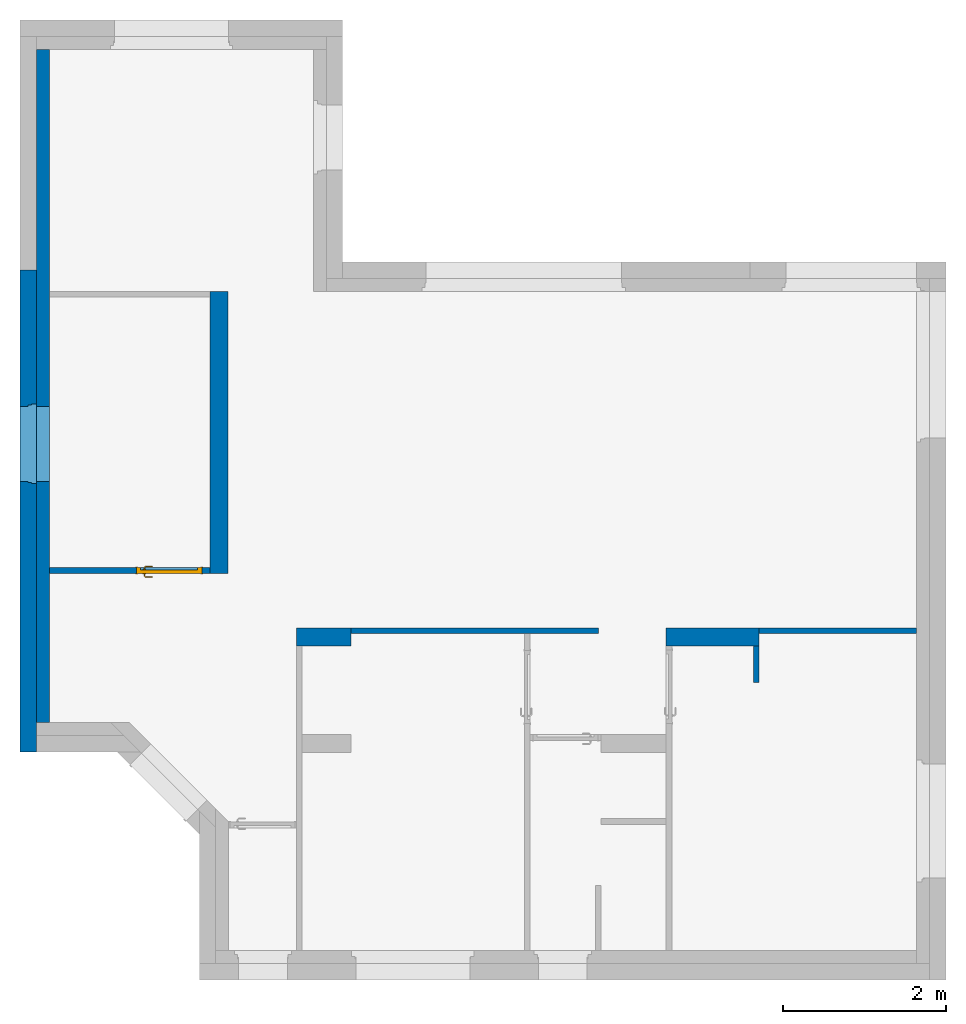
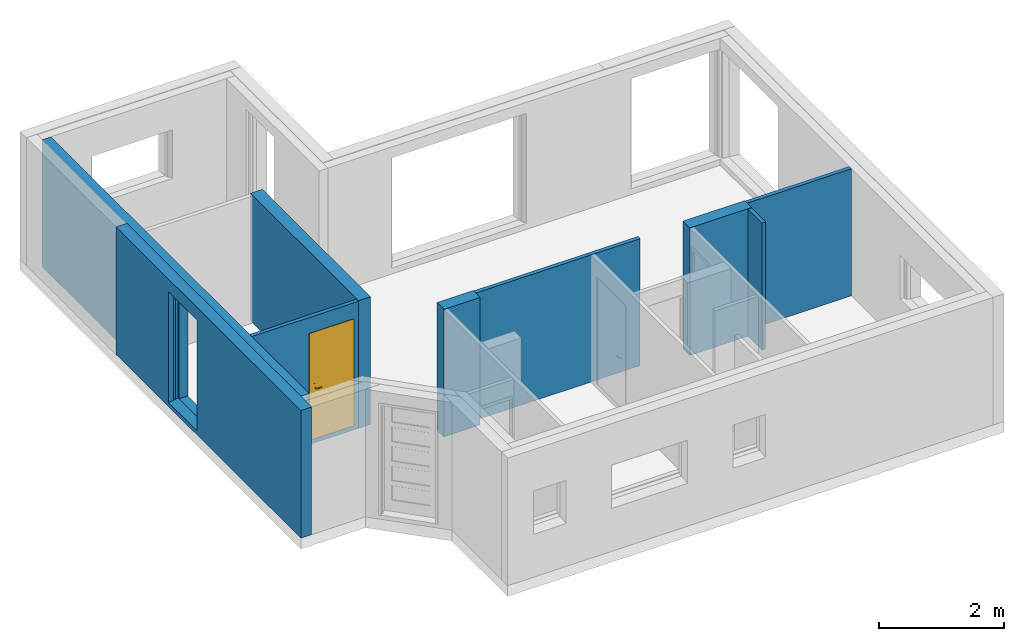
"""IFC2X3 building model written with IfcOpenShell, lengths in centimetres."""

from ifc_helpers import new_model, entity, si_unit, converted_unit, derived_unit, direction, frame, frame_2d, origin, place, context, subcontext, project, spatial, polyline, rectangle, extrude, clip, bounded_halfspace, faceted_brep, source, transform, mapped, material, material_list, layer, layer_set, layer_usage, type_object, type_shapes, element, fill, save


model = new_model("IFC2X3")

# Units and contexts
model_context = context("Model", 3, precision=0.001, world=origin(), true_north=direction((6.12303176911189e-17, 1.0)))
body_context = subcontext(model_context, "Body", "Model", "MODEL_VIEW")
ifc_project = project(units=[si_unit("LENGTHUNIT", "METRE", prefix="CENTI"), si_unit("AREAUNIT", "SQUARE_METRE"), si_unit("VOLUMEUNIT", "CUBIC_METRE"), converted_unit("PLANEANGLEUNIT", "DEGREE", entity("IfcRatioMeasure", 0.0174532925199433), si_unit("PLANEANGLEUNIT", "RADIAN"), dimensions=[0, 0, 0, 0, 0, 0, 0]), si_unit("MASSUNIT", "GRAM", prefix="KILO"), derived_unit("MASSDENSITYUNIT", [(si_unit("MASSUNIT", "GRAM", prefix="KILO"), 1), (si_unit("LENGTHUNIT", "METRE"), -3)]), derived_unit("MOMENTOFINERTIAUNIT", [(si_unit("LENGTHUNIT", "METRE"), 4)]), si_unit("TIMEUNIT", "SECOND"), si_unit("FREQUENCYUNIT", "HERTZ"), si_unit("THERMODYNAMICTEMPERATUREUNIT", "DEGREE_CELSIUS"), derived_unit("THERMALTRANSMITTANCEUNIT", [(si_unit("MASSUNIT", "GRAM", prefix="KILO"), 1), (si_unit("THERMODYNAMICTEMPERATUREUNIT", "KELVIN"), -1), (si_unit("TIMEUNIT", "SECOND"), -3)]), derived_unit("VOLUMETRICFLOWRATEUNIT", [(si_unit("LENGTHUNIT", "METRE"), 3), (si_unit("TIMEUNIT", "SECOND"), -1)]), si_unit("ELECTRICCURRENTUNIT", "AMPERE"), si_unit("ELECTRICVOLTAGEUNIT", "VOLT"), si_unit("POWERUNIT", "WATT"), si_unit("FORCEUNIT", "NEWTON", prefix="KILO"), si_unit("ILLUMINANCEUNIT", "LUX"), si_unit("LUMINOUSFLUXUNIT", "LUMEN"), si_unit("LUMINOUSINTENSITYUNIT", "CANDELA"), derived_unit("USERDEFINED", [(si_unit("MASSUNIT", "GRAM", prefix="KILO"), -1), (si_unit("LENGTHUNIT", "METRE"), -2), (si_unit("TIMEUNIT", "SECOND"), 3), (si_unit("LUMINOUSFLUXUNIT", "LUMEN"), 1)]), derived_unit("LINEARVELOCITYUNIT", [(si_unit("LENGTHUNIT", "METRE"), 1), (si_unit("TIMEUNIT", "SECOND"), -1)]), si_unit("PRESSUREUNIT", "PASCAL"), derived_unit("USERDEFINED", [(si_unit("LENGTHUNIT", "METRE"), -2), (si_unit("MASSUNIT", "GRAM", prefix="KILO"), 1), (si_unit("TIMEUNIT", "SECOND"), -2)]), derived_unit("LINEARFORCEUNIT", [(si_unit("MASSUNIT", "GRAM", prefix="KILO"), 1), (si_unit("LENGTHUNIT", "METRE"), 1), (si_unit("TIMEUNIT", "SECOND"), -2), (si_unit("LENGTHUNIT", "METRE"), -1)]), derived_unit("PLANARFORCEUNIT", [(si_unit("MASSUNIT", "GRAM", prefix="KILO"), 1), (si_unit("LENGTHUNIT", "METRE"), 1), (si_unit("TIMEUNIT", "SECOND"), -2), (si_unit("LENGTHUNIT", "METRE"), -2)])], contexts=[model_context])

# Site, building, storey
site_placement = place(None, origin())
site = spatial("IfcSite", under=ifc_project, at=site_placement, Name="Surface", CompositionType="ELEMENT")
building_placement = place(site_placement, origin())
building = spatial("IfcBuilding", under=site, at=building_placement, CompositionType="ELEMENT")
storey_1_placement = place(building_placement, frame((0.0, 0.0, -8.0)))
storey_1 = spatial("IfcBuildingStorey", under=building, at=storey_1_placement, Name="-0.08_Dessus plancher", CompositionType="ELEMENT", Elevation=-8.0)

# Wall, opening
ifc_material_1 = material(Name="Maçonnerie - Béton")
ifc_layer_1 = layer(ifc_material_1, 20.0)
ifc_layer_set_1 = layer_set([ifc_layer_1], Name="Mur de base:Mur 20")
ifc_layer_usage_1 = layer_usage(ifc_layer_set_1, "AXIS2", "POSITIVE", -10.0)
wall_type_1 = type_object("IfcWallType", Name="Mur de base:Mur 20", PredefinedType="STANDARD", material=ifc_layer_set_1)
wall_1_placement = place(storey_1_placement, frame((-1778.17726031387, 711.992317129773, 0.0), z_axis=(0.0, 0.0, 1.0), x_axis=(0.0, -1.0, 0.0)))
wall_1 = element("IfcWallStandardCase", 1, at=wall_1_placement, inside=storey_1, type_object=wall_type_1, material=ifc_layer_usage_1, Name="Mur de base:Mur 20", ObjectType="Mur de base:Mur 20", context=body_context, shape_type="Clipping", body=[
    clip(extrude(rectangle(XDim=591.000000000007, YDim=19.9999999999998, at=frame_2d((295.500000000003, 0.0), x_axis=(-1.0, 0.0))), origin(), (0.0, 0.0, 1.0), 249.0), bounded_halfspace(frame((0.0, -10.0, 249.0), z_axis=(0.0, 0.0, -1.0), x_axis=(1.0, 0.0, 0.0)), True, frame((0.0, -10.0, 249.0)), polyline([(0.0, 0.0), (591.0, 0.0), (591.0, 20.0), (571.0, 20.0), (0.0, 20.0), (0.0, 0.0)]))),
])
opening_1_placement = place(wall_1_placement, frame((262.0, -40.0, 8.0), z_axis=(0.0, 0.0, 1.0), x_axis=(0.0, 1.0, 0.0)))
element("IfcOpeningElement", 2, at=opening_1_placement, cuts=wall_1, Name="Mur de base:Mur 20", ObjectType="Opening", context=body_context, shape_type="Brep", body=[
    faceted_brep([(80.0, 3.0, 216.0), (80.0, 95.0, 216.0), (50.0, 95.0, 216.0), (50.0, 3.0, 216.0), (0.0, 3.0, 0.0), (0.0, 95.0, 0.0), (40.0, 95.0, 0.0), (40.0, 96.4999999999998, 0.0), (44.300000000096, 96.4999999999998, 0.0), (44.300000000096, 98.0, 0.0), (50.0, 98.0, 0.0), (50.0, 95.0, 0.0), (80.0, 95.0, 0.0), (80.0, 3.0, 0.0), (50.0, 3.0, 0.0), (50.0, 0.0, 0.0), (44.300000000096, 0.0, 0.0), (44.300000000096, 1.50000000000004, 0.0), (40.0, 1.50000000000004, 0.0), (40.0, 3.0, 0.0), (0.0, 3.0, 216.0), (0.0, 95.0, 216.0), (40.0, 95.0, 216.0), (44.300000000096, 0.0, 219.0), (44.300000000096, 98.0, 219.0), (44.300000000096, 96.4999999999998, 217.499999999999), (44.300000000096, 1.50000000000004, 217.499999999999), (50.0, 98.0, 219.0), (50.0, 0.0, 219.0), (40.0, 96.4999999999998, 217.499999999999), (40.0, 3.0, 216.0), (40.0, 1.50000000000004, 217.499999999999)], [[[0, 1, 2, 3]], [[4, 5, 6, 7, 8, 9, 10, 11, 12, 13, 14, 15, 16, 17, 18, 19]], [[13, 0, 3, 14]], [[20, 21, 5, 4]], [[5, 21, 22, 6]], [[1, 0, 13, 12]], [[16, 23, 24, 9, 8, 25, 26, 17]], [[11, 10, 27, 28, 15, 14, 3, 2]], [[10, 9, 24, 27]], [[24, 23, 28, 27]], [[23, 16, 15, 28]], [[8, 7, 29, 25]], [[7, 6, 22, 30, 19, 18, 31, 29]], [[25, 29, 31, 26]], [[31, 18, 17, 26]], [[1, 12, 11, 2]], [[20, 4, 19, 30]], [[21, 20, 30, 22]]]),
])

# Walls
ifc_material_2 = material(Name="Plâtre")
ifc_layer_2 = layer(ifc_material_2, 1.0)
ifc_material_3 = material(Name="Mur par défaut")
ifc_layer_3 = layer(ifc_material_3, 20.0)
ifc_layer_4 = layer(ifc_material_2, 1.0)
ifc_layer_set_2 = layer_set([ifc_layer_2, ifc_layer_3, ifc_layer_4], Name="Mur de base:Mur refend 22")
ifc_layer_usage_2 = layer_usage(ifc_layer_set_2, "AXIS2", "NEGATIVE", 11.0)
wall_type_2 = type_object("IfcWallType", Name="Mur de base:Mur refend 22", PredefinedType="STANDARD", material=ifc_layer_set_2)
wall_2_placement = place(storey_1_placement, frame((-995.177260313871, 261.992317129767, 0.0)))
element("IfcWallStandardCase", 3, at=wall_2_placement, inside=storey_1, type_object=wall_type_2, material=ifc_layer_usage_2, Name="Mur de base:Mur refend 22", ObjectType="Mur de base:Mur refend 22", context=body_context, shape_type="Clipping", body=[
    clip(extrude(rectangle(XDim=114.000000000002, YDim=22.0, at=frame_2d((57.0000000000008, 0.0), x_axis=(-1.0, 0.0))), origin(), (0.0, 0.0, 1.0), 249.0), bounded_halfspace(frame((0.0, -11.0, 249.0), z_axis=(0.0, 0.0, -1.0), x_axis=(0.0, -1.0, 0.0)), True, frame((0.0, -11.0, 249.0)), polyline([(0.0, 0.0), (114.0, 0.0), (114.0, 22.0), (0.0, 22.0), (0.0, 0.0)]))),
])
ifc_layer_usage_3 = layer_usage(ifc_layer_set_2, "AXIS2", "POSITIVE", -11.0)
wall_3_placement = place(storey_1_placement, frame((-1382.17726031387, 261.992317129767, 0.0), z_axis=(0.0, 0.0, 1.0), x_axis=(-1.0, 0.0, 0.0)))
element("IfcWallStandardCase", 4, at=wall_3_placement, inside=storey_1, type_object=wall_type_2, material=ifc_layer_usage_3, Name="Mur de base:Mur refend 22", ObjectType="Mur de base:Mur refend 22", context=body_context, shape_type="Clipping", body=[
    clip(extrude(rectangle(XDim=66.9999999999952, YDim=22.0, at=frame_2d((33.4999999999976, 0.0), x_axis=(-1.0, 0.0))), origin(), (0.0, 0.0, 1.0), 249.0), bounded_halfspace(frame((0.0, -11.0, 249.0), z_axis=(0.0, 0.0, -1.0), x_axis=(0.0, 1.0, 0.0)), True, frame((0.0, -11.0, 249.0)), polyline([(0.0, 0.0), (67.0, 0.0), (67.0, 22.0), (0.0, 22.0), (0.0, 0.0)]))),
])
ifc_layer_usage_4 = layer_usage(ifc_layer_set_2, "AXIS2", "POSITIVE", -11.0)
wall_4_placement = place(storey_1_placement, frame((-1544.17726031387, 339.992317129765, 0.0), z_axis=(0.0, 0.0, 1.0), x_axis=(0.0, 1.0, 0.0)))
element("IfcWallStandardCase", 5, at=wall_4_placement, inside=storey_1, type_object=wall_type_2, material=ifc_layer_usage_4, Name="Mur de base:Mur refend 22", ObjectType="Mur de base:Mur refend 22", context=body_context, shape_type="Clipping", body=[
    clip(extrude(rectangle(XDim=346.000000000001, YDim=22.0000000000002, at=frame_2d((173.0, 1.86517468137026e-14), x_axis=(-1.0, 0.0))), origin(), (0.0, 0.0, 1.0), 249.0), bounded_halfspace(frame((0.0, -11.0, 249.0), z_axis=(0.0, 0.0, -1.0), x_axis=(-1.0, 0.0, 0.0)), True, frame((0.0, -11.0, 249.0)), polyline([(0.0, 0.0), (346.0, 0.0), (346.0, 22.0), (0.0, 22.0), (0.0, 0.0)]))),
])

# Wall, opening
ifc_material_4 = material(Name="Isolant rigide")
ifc_layer_5 = layer(ifc_material_4, 16.0)
ifc_layer_set_3 = layer_set([ifc_layer_5], Name="Mur de base:Doublage 16")
ifc_layer_usage_5 = layer_usage(ifc_layer_set_3, "AXIS2", "NEGATIVE", 8.0)
wall_type_3 = type_object("IfcWallType", Name="Mur de base:Doublage 16", PredefinedType="STANDARD", material=ifc_layer_set_3)
wall_5_placement = place(storey_1_placement, frame((-1760.17726031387, 156.992317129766, 0.0), z_axis=(0.0, 0.0, 1.0), x_axis=(0.0, 1.0, 0.0)))
wall_5 = element("IfcWallStandardCase", 6, at=wall_5_placement, inside=storey_1, type_object=wall_type_3, material=ifc_layer_usage_5, Name="Mur de base:Doublage 16", ObjectType="Mur de base:Doublage 16", context=body_context, shape_type="SweptSolid", body=[
    extrude(rectangle(XDim=826.0, YDim=15.9999999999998, at=frame_2d((413.0, 0.0), x_axis=(-1.0, 0.0))), origin(), (0.0, 0.0, 1.0), 248.0),
])
opening_2_placement = place(wall_5_placement, frame((293.0, 58.0, 8.0)))
element("IfcOpeningElement", 7, at=opening_2_placement, cuts=wall_5, Name="Mur de base:Doublage 16", ObjectType="Opening", context=body_context, shape_type="Brep", body=[
    faceted_brep([(3.0, -80.0, 216.0), (95.0, -80.0, 216.0), (95.0, -50.0, 216.0), (3.0, -50.0, 216.0), (3.0, 0.0, 0.0), (95.0, 0.0, 0.0), (95.0, -40.0, 0.0), (96.4999999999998, -40.0, 0.0), (96.4999999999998, -44.3000000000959, 0.0), (98.0, -44.3000000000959, 0.0), (98.0, -50.0, 0.0), (95.0, -50.0, 0.0), (95.0, -80.0, 0.0), (3.0, -80.0, 0.0), (3.0, -50.0, 0.0), (0.0, -50.0, 0.0), (0.0, -44.300000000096, 0.0), (1.50000000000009, -44.300000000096, 0.0), (1.50000000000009, -40.0, 0.0), (3.0, -40.0, 0.0), (3.0, 0.0, 216.0), (95.0, 0.0, 216.0), (95.0, -40.0, 216.0), (0.0, -44.300000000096, 219.0), (98.0, -44.3000000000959, 219.0), (96.4999999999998, -44.3000000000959, 217.499999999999), (1.50000000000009, -44.300000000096, 217.499999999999), (98.0, -50.0, 219.0), (0.0, -50.0, 219.0), (96.4999999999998, -40.0, 217.499999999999), (3.0, -40.0, 216.0), (1.50000000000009, -40.0, 217.499999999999)], [[[0, 1, 2, 3]], [[4, 5, 6, 7, 8, 9, 10, 11, 12, 13, 14, 15, 16, 17, 18, 19]], [[13, 0, 3, 14]], [[20, 21, 5, 4]], [[5, 21, 22, 6]], [[1, 0, 13, 12]], [[16, 23, 24, 9, 8, 25, 26, 17]], [[11, 10, 27, 28, 15, 14, 3, 2]], [[10, 9, 24, 27]], [[24, 23, 28, 27]], [[23, 16, 15, 28]], [[8, 7, 29, 25]], [[7, 6, 22, 30, 19, 18, 31, 29]], [[25, 29, 31, 26]], [[31, 18, 17, 26]], [[1, 12, 11, 2]], [[20, 4, 19, 30]], [[21, 20, 30, 22]]]),
])

# Walls
ifc_layer_6 = layer(ifc_material_3, 7.0)
ifc_layer_set_4 = layer_set([ifc_layer_6], Name="Mur de base:Cloison 7cm")
ifc_layer_usage_6 = layer_usage(ifc_layer_set_4, "AXIS2", "NEGATIVE", 3.5)
wall_type_4 = type_object("IfcWallType", Name="Mur de base:Cloison 7cm", PredefinedType="STANDARD", material=ifc_layer_set_4)
wall_6_placement = place(storey_1_placement, frame((-1382.17726031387, 269.492317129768, 0.0)))
element("IfcWallStandardCase", 8, at=wall_6_placement, inside=storey_1, type_object=wall_type_4, material=ifc_layer_usage_6, Name="Mur de base:Cloison 7cm", ObjectType="Mur de base:Cloison 7cm", context=body_context, shape_type="SweptSolid", body=[
    extrude(rectangle(XDim=304.000000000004, YDim=7.00000000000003, at=frame_2d((152.000000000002, 1.4210854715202e-14), x_axis=(-1.0, 0.0))), origin(), (0.0, 0.0, 1.0), 248.0),
])
ifc_layer_usage_7 = layer_usage(ifc_layer_set_4, "AXIS2", "POSITIVE", -3.5)
wall_7_placement = place(storey_1_placement, frame((-688.177260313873, 269.492317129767, 0.0), z_axis=(0.0, 0.0, 1.0), x_axis=(-1.0, 0.0, 0.0)))
element("IfcWallStandardCase", 9, at=wall_7_placement, inside=storey_1, type_object=wall_type_4, material=ifc_layer_usage_7, Name="Mur de base:Cloison 7cm", ObjectType="Mur de base:Cloison 7cm", context=body_context, shape_type="SweptSolid", body=[
    extrude(rectangle(XDim=192.999999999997, YDim=7.00000000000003, at=frame_2d((96.4999999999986, 0.0), x_axis=(-1.0, 0.0))), origin(), (0.0, 0.0, 1.0), 248.0),
])
ifc_layer_usage_8 = layer_usage(ifc_layer_set_4, "AXIS2", "NEGATIVE", 3.5)
wall_8_placement = place(storey_1_placement, frame((-884.67726031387, 250.992317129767, 0.0), z_axis=(0.0, 0.0, 1.0), x_axis=(0.0, -1.0, 0.0)))
element("IfcWallStandardCase", 10, at=wall_8_placement, inside=storey_1, type_object=wall_type_4, material=ifc_layer_usage_8, Name="Mur de base:Cloison 7cm", ObjectType="Mur de base:Cloison 7cm", context=body_context, shape_type="SweptSolid", body=[
    extrude(rectangle(XDim=45.0000000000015, YDim=6.99999999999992, at=frame_2d((22.5000000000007, 0.0), x_axis=(-1.0, 0.0))), origin(), (0.0, 0.0, 1.0), 248.0),
])

# Wall, openings
ifc_layer_usage_9 = layer_usage(ifc_layer_set_4, "AXIS2", "POSITIVE", -3.5)
wall_9_placement = place(storey_1_placement, frame((-1555.17726031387, 343.492317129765, 0.0), z_axis=(0.0, 0.0, 1.0), x_axis=(-1.0, 0.0, 0.0)))
wall_9 = element("IfcWallStandardCase", 11, at=wall_9_placement, inside=storey_1, type_object=wall_type_4, material=ifc_layer_usage_9, Name="Mur de base:Cloison 7cm", ObjectType="Mur de base:Cloison 7cm", context=body_context, shape_type="SweptSolid", body=[
    extrude(rectangle(XDim=196.999999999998, YDim=7.00000000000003, at=frame_2d((98.499999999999, 0.0), x_axis=(-1.0, 0.0))), origin(), (0.0, 0.0, 1.0), 248.0),
])
opening_3_placement = place(wall_9_placement, frame((-1555.17726031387, 343.492317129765, 8.0), z_axis=(0.0, 0.0, 1.0), x_axis=(-1.0, 0.0, 0.0)))
element("IfcOpeningElement", 12, at=opening_3_placement, cuts=wall_9, Name="Mur de base:Cloison 7cm", ObjectType="Opening", context=body_context, shape_type="SweptSolid", body=[
    extrude(rectangle(XDim=207.5, YDim=80.0, at=frame_2d((-1.4210854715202e-14, 0.0), x_axis=(1.0, 0.0))), frame((-1605.09045515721, 492.392317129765, 103.75), z_axis=(0.0, -1.0, 0.0), x_axis=(0.0, 0.0, 1.0)), (0.0, 0.0, 1.0), 304.8),
])
opening_4_placement = place(wall_9_placement, frame((9.91319484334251, -3.49999999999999, 8.0)))
opening_4 = element("IfcOpeningElement", 13, at=opening_4_placement, cuts=wall_9, Name="Int. Simple:PP (0.73m x 2.04m):1", ObjectType="Opening", context=body_context, shape_type="SweptSolid", body=[
    extrude(rectangle(XDim=207.5, YDim=79.9999999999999, at=frame_2d((103.75, 40.0), x_axis=(1.0, 0.0))), frame((0.0, 0.0, 0.0), z_axis=(0.0, 1.0, 0.0), x_axis=(0.0, 0.0, 1.0)), (0.0, 0.0, 1.0), 7.0),
])

# Storey
storey_2_placement = place(building_placement, origin())
storey_2 = spatial("IfcBuildingStorey", under=building, at=storey_2_placement, Name="1_Rez-de-chaussée", CompositionType="ELEMENT", Elevation=-7.93413063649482e-11)

# Door
ifc_material_5 = material(Name="Finition Peinture - Blanc satiné")
ifc_material_6 = material(Name="Bois - Panneau de porte")
ifc_material_7 = material(Name="Bois - Cadre de porte")
ifc_material_list_1 = material_list([ifc_material_5, ifc_material_6, ifc_material_7])
ifc_material_list_2 = material_list([ifc_material_7, ifc_material_5, ifc_material_6])
door_style = type_object("IfcDoorStyle", Name="Int. Simple:PP (0.73m x 2.04m)", ConstructionType="NOTDEFINED", OperationType="NOTDEFINED", ParameterTakesPrecedence=False, Sizeable=False, material=ifc_material_list_2)
shared_shape = source(origin(), body_context, "Body", "Brep", [
    faceted_brep([(10.5352761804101, -0.500000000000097, 86.6003983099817), (11.5, -0.500000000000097, 87.0), (11.4999999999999, -0.500000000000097, 108.0), (10.53527618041, -0.500000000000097, 108.399601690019), (9.49999999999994, -0.500000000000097, 108.535898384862), (8.46472381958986, -0.500000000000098, 108.399601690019), (7.49999999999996, -0.500000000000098, 108.0), (7.50000000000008, -0.500000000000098, 87.0), (8.46472381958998, -0.500000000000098, 86.6003983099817), (9.50000000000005, -0.500000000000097, 86.464101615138), (10.53527618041, 0.0, 108.399601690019), (11.4999999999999, 0.0, 108.0), (11.5, 0.0, 87.0), (10.5352761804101, 0.0, 86.6003983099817), (9.50000000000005, 0.0, 86.464101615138), (8.46472381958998, 0.0, 86.6003983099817), (7.49999999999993, 0.0, 87.0), (7.49999999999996, 0.0, 108.0), (8.46472381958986, 0.0, 108.399601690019), (9.49999999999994, 0.0, 108.535898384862)], [[[0, 1, 2, 3, 4, 5, 6, 7, 8, 9]], [[10, 11, 12, 13, 14, 15, 16, 17, 18, 19]], [[16, 15, 8, 7]], [[8, 15, 14, 9]], [[14, 13, 0, 9]], [[13, 12, 1, 0]], [[2, 1, 12, 11]], [[11, 10, 3, 2]], [[3, 10, 19, 4]], [[19, 18, 5, 4]], [[18, 17, 6, 5]], [[7, 6, 17, 16]]]),
    faceted_brep([(10.5352761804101, 4.0, 86.6003983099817), (11.5, 4.0, 87.0), (11.4999999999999, 4.0, 108.0), (10.53527618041, 4.0, 108.399601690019), (9.4999999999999, 4.0, 108.535898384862), (8.46472381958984, 4.0, 108.399601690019), (7.49999999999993, 4.0, 108.0), (7.50000000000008, 4.0, 87.0), (8.46472381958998, 4.0, 86.6003983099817), (9.50000000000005, 4.0, 86.464101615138), (10.53527618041, 4.4999999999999, 108.399601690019), (11.4999999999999, 4.4999999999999, 108.0), (11.5, 4.4999999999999, 87.0), (10.5352761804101, 4.4999999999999, 86.6003983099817), (9.50000000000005, 4.4999999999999, 86.464101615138), (8.46472381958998, 4.4999999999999, 86.6003983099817), (7.49999999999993, 4.4999999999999, 87.0), (7.49999999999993, 4.4999999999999, 108.0), (8.46472381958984, 4.4999999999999, 108.399601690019), (9.4999999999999, 4.4999999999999, 108.535898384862)], [[[0, 1, 2, 3, 4, 5, 6, 7, 8, 9]], [[10, 11, 12, 13, 14, 15, 16, 17, 18, 19]], [[11, 10, 3, 2]], [[3, 10, 19, 4]], [[19, 18, 5, 4]], [[18, 17, 6, 5]], [[7, 6, 17, 16]], [[16, 15, 8, 7]], [[8, 15, 14, 9]], [[14, 13, 0, 9]], [[13, 12, 1, 0]], [[2, 1, 12, 11]]]),
    faceted_brep([(9.29747013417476, -0.500000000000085, 100.778044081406), (9.70252986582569, -0.500000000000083, 100.778044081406), (10.1000000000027, -0.500000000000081, 100.699999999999), (10.1000000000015, -0.500000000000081, 99.3000000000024), (9.70252986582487, -0.500000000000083, 99.2219559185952), (9.29747013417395, -0.500000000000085, 99.221955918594), (8.89999999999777, -0.500000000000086, 99.2999999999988), (8.89999999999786, -0.500000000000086, 100.7), (8.89999999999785, -3.26509507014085, 100.7), (9.29747013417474, -3.10045754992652, 100.778044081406), (10.9023585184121, -4.7053459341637, 100.778044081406), (11.0701397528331, -4.30028620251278, 100.778044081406), (9.70252986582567, -2.93267631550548, 100.778044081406), (10.1000000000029, -2.76803879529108, 100.7), (10.1000000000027, -2.76803879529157, 99.3000000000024), (9.70252986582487, -2.93267631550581, 99.2219559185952), (11.0701397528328, -4.30028620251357, 99.2219559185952), (10.9023585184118, -4.70534593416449, 99.221955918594), (9.29747013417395, -3.10045754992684, 99.221955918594), (8.89999999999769, -3.26509507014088, 99.2999999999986), (10.7377209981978, -5.1028160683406, 100.7), (11.2347772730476, -3.9028160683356, 100.7), (11.2347772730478, -3.90281606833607, 99.3000000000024), (10.7377209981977, -5.10281606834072, 99.2999999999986), (19.5018640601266, -5.1028160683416, 99.2999999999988), (19.5018640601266, -4.70534593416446, 99.221955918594), (19.5018640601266, -4.30028620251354, 99.2219559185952), (19.5018640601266, -3.90281606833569, 99.3000000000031), (19.5018640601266, -3.90281606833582, 100.7), (19.5018640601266, -4.30028620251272, 100.778044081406), (19.5018640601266, -4.70534593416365, 100.778044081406), (19.5018640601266, -5.10281606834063, 100.699999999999), (14.7307697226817, -5.10281606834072, 100.7), (15.2860019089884, -4.50281606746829, 100.78786867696), (15.368320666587, -3.90281606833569, 100.7), (15.3683206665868, -3.90281606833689, 99.3000000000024), (15.2860018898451, -4.50281607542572, 99.2121313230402), (14.7307700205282, -5.10281606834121, 99.2999999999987)], [[[0, 1, 2, 3, 4, 5, 6, 7]], [[8, 9, 0, 7]], [[9, 10, 11, 12, 1, 0]], [[12, 13, 2, 1]], [[3, 2, 13, 14]], [[14, 15, 4, 3]], [[15, 16, 17, 18, 5, 4]], [[18, 19, 6, 5]], [[7, 6, 19, 8]], [[20, 10, 9, 8]], [[11, 21, 13, 12]], [[14, 13, 21, 22]], [[22, 16, 15, 14]], [[17, 23, 19, 18]], [[8, 19, 23, 20]], [[24, 25, 26, 27, 28, 29, 30, 31]], [[32, 30, 33]], [[31, 30, 32]], [[10, 20, 32]], [[33, 34, 11]], [[21, 11, 34]], [[34, 29, 28]], [[30, 29, 33]], [[29, 34, 33]], [[10, 32, 33]], [[10, 33, 11]], [[22, 21, 34, 28, 27, 35]], [[35, 26, 36]], [[37, 36, 25]], [[22, 35, 16]], [[35, 27, 26]], [[24, 37, 25]], [[23, 17, 37]], [[37, 17, 36]], [[17, 16, 36]], [[16, 35, 36]], [[25, 36, 26]], [[20, 23, 37, 24, 31, 32]]]),
    faceted_brep([(9.29747013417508, 4.49999999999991, 100.778044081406), (8.89999999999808, 4.49999999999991, 100.7), (8.89999999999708, 4.49999999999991, 99.2999999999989), (9.29747013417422, 4.49999999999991, 99.221955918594), (9.70252986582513, 4.49999999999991, 99.2219559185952), (10.100000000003, 4.49999999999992, 99.3000000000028), (10.1000000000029, 4.49999999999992, 100.7), (9.70252986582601, 4.49999999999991, 100.778044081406), (10.100000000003, 6.74852045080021, 99.3000000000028), (10.100000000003, 6.74852045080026, 100.7), (9.70252986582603, 6.91315797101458, 100.778044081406), (11.0838906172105, 8.29451872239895, 100.778044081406), (10.9161093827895, 8.69957845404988, 100.778044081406), (9.2974701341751, 7.0809392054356, 100.778044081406), (8.89999999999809, 7.24557672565, 100.7), (8.89999999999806, 7.24557672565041, 99.2999999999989), (9.29747013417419, 7.08093920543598, 99.221955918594), (10.9161093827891, 8.69957845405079, 99.221955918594), (11.0838906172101, 8.29451872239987, 99.2219559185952), (9.70252986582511, 6.91315797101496, 99.2219559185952), (11.2485281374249, 7.89704858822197, 99.3000000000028), (11.2485281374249, 7.897048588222, 100.7), (10.7514718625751, 9.0970485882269, 100.7), (10.7514718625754, 9.09704858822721, 99.2999999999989), (19.5045783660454, 7.89704858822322, 99.3000000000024), (19.5045783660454, 8.29451872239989, 99.2219559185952), (19.5045783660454, 8.69957845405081, 99.221955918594), (19.5045783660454, 9.09704858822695, 99.2999999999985), (19.5045783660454, 9.09704858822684, 100.7), (19.5045783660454, 8.69957845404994, 100.778044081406), (19.5045783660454, 8.29451872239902, 100.778044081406), (19.5045783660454, 7.897048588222, 100.7), (15.3765520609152, 7.89704858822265, 99.3000000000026), (15.3765532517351, 7.89704858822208, 100.7), (15.2942344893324, 8.49704858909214, 100.78786867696), (14.7445205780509, 9.09704858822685, 100.7), (14.7445204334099, 9.09704858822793, 99.2999999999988), (15.2942345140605, 8.49704858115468, 99.2121313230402)], [[[0, 1, 2, 3, 4, 5, 6, 7]], [[6, 5, 8, 9]], [[9, 10, 7, 6]], [[10, 11, 12, 13, 0, 7]], [[13, 14, 1, 0]], [[2, 1, 14, 15]], [[15, 16, 3, 2]], [[16, 17, 18, 19, 4, 3]], [[19, 8, 5, 4]], [[9, 8, 20, 21]], [[21, 11, 10, 9]], [[12, 22, 14, 13]], [[15, 14, 22, 23]], [[23, 17, 16, 15]], [[18, 20, 8, 19]], [[24, 25, 26, 27, 28, 29, 30, 31]], [[21, 20, 32, 24, 31, 33]], [[33, 30, 34]], [[35, 34, 29]], [[21, 33, 11]], [[33, 31, 30]], [[28, 35, 29]], [[22, 12, 35]], [[35, 12, 34]], [[12, 11, 34]], [[11, 33, 34]], [[29, 34, 30]], [[22, 35, 28, 27, 36, 23]], [[36, 26, 37]], [[27, 26, 36]], [[17, 23, 36]], [[37, 32, 18]], [[20, 18, 32]], [[32, 25, 24]], [[26, 25, 37]], [[25, 32, 37]], [[17, 36, 37]], [[17, 37, 18]]]),
    faceted_brep([(3.49999999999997, 4.0, 204.0), (76.5, 4.0, 204.0), (76.5, 4.0, 0.0), (3.49999999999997, 4.0, 0.0), (3.49999999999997, 0.0, 204.0), (3.49999999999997, 0.0, 0.0), (76.5, 0.0, 0.0), (76.5, 0.0, 204.0)], [[[0, 1, 2, 3]], [[4, 5, 6, 7]], [[1, 0, 4, 7]], [[2, 1, 7, 6]], [[3, 2, 6, 5]], [[0, 3, 5, 4]]]),
    faceted_brep([(0.0, 0.0, 0.0), (0.0, 7.0, 0.0), (5.0, 7.0, 0.0), (5.0, 4.0, 0.0), (3.49999999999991, 4.0, 0.0), (3.49999999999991, 0.0, 0.0), (0.0, 0.0, 207.500000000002), (0.0, 7.0, 207.500000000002), (80.0, 7.0, 207.500000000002), (80.0, 7.0, 0.0), (75.0, 7.0, 0.0), (75.0, 7.0, 202.5), (5.0, 7.0, 202.5), (5.0, 4.0, 202.5), (75.0, 4.0, 202.5), (75.0, 4.0, 0.0), (76.5000000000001, 4.0, 0.0), (76.5000000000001, 4.0, 204.0), (3.49999999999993, 4.0, 204.0), (3.49999999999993, 0.0, 204.0), (76.5000000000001, 0.0, 204.0), (76.5000000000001, 0.0, 0.0), (80.0, 0.0, 0.0), (80.0, 0.0, 207.500000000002)], [[[0, 1, 2, 3, 4, 5]], [[1, 0, 6, 7]], [[2, 1, 7, 8, 9, 10, 11, 12]], [[3, 2, 12, 13]], [[4, 3, 13, 14, 15, 16, 17, 18]], [[5, 4, 18, 19]], [[0, 5, 19, 20, 21, 22, 23, 6]], [[8, 23, 22, 9]], [[22, 21, 16, 15, 10, 9]], [[14, 11, 10, 15]], [[20, 17, 16, 21]], [[7, 6, 23, 8]], [[13, 12, 11, 14]], [[19, 18, 17, 20]]]),
    faceted_brep([(1.49999999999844, 7.0, 0.0), (-1.50000000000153, 7.0, 0.0), (-1.50000000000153, 7.49999999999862, 0.0), (1.49999999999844, 7.49999999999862, 0.0), (1.49999999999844, 7.0, 206.0), (78.4999999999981, 7.0, 206.0), (78.4999999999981, 7.0, 0.0), (81.499999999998, 7.0, 0.0), (81.499999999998, 7.0, 209.0), (-1.50000000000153, 7.0, 209.0), (-1.50000000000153, 7.49999999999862, 209.0), (81.499999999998, 7.49999999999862, 209.0), (81.499999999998, 7.49999999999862, 0.0), (78.4999999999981, 7.49999999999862, 0.0), (78.4999999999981, 7.49999999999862, 206.0), (1.49999999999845, 7.49999999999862, 206.0)], [[[0, 1, 2, 3]], [[1, 0, 4, 5, 6, 7, 8, 9]], [[2, 1, 9, 10]], [[3, 2, 10, 11, 12, 13, 14, 15]], [[0, 3, 15, 4]], [[6, 13, 12, 7]], [[5, 14, 13, 6]], [[11, 8, 7, 12]], [[10, 9, 8, 11]], [[4, 15, 14, 5]]]),
    faceted_brep([(-1.50000000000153, -0.499999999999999, 0.0), (1.49999999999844, -0.499999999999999, 0.0), (1.49999999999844, -0.499999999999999, 206.0), (78.4999999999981, -0.499999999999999, 206.0), (78.4999999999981, -0.499999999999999, 0.0), (81.499999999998, -0.499999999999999, 0.0), (81.499999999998, -0.499999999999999, 209.0), (-1.50000000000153, -0.499999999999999, 209.0), (-1.50000000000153, 0.0, 0.0), (-1.50000000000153, 0.0, 209.0), (1.49999999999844, 0.0, 0.0), (81.499999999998, 0.0, 209.0), (81.499999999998, 0.0, 0.0), (78.4999999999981, 0.0, 0.0), (78.4999999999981, 0.0, 206.0), (1.49999999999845, 0.0, 206.0)], [[[0, 1, 2, 3, 4, 5, 6, 7]], [[8, 0, 7, 9]], [[10, 8, 9, 11, 12, 13, 14, 15]], [[1, 10, 15, 2]], [[3, 14, 13, 4]], [[11, 6, 5, 12]], [[9, 7, 6, 11]], [[2, 15, 14, 3]], [[4, 13, 12, 5]], [[1, 0, 8, 10]]]),
])
type_shapes(door_style, [shared_shape])
door_placement = place(opening_4_placement, frame((80.0, 7.0, 0.0), z_axis=(0.0, 0.0, 1.0), x_axis=(-1.0, 0.0, 0.0)))
door = element("IfcDoor", 14, at=door_placement, inside=storey_2, type_object=door_style, material=ifc_material_list_1, Name="Int. Simple:PP (0.73m x 2.04m)", ObjectType="Int. Simple:PP (0.73m x 2.04m)", OverallHeight=207.5, OverallWidth=80.0, context=body_context, shape_type="MappedRepresentation", body=[
    mapped(shared_shape, transform((0.0, 0.0, 0.0), scale=1.0)),
])

fill(opening_4, door)

save(model, "model.ifc")
